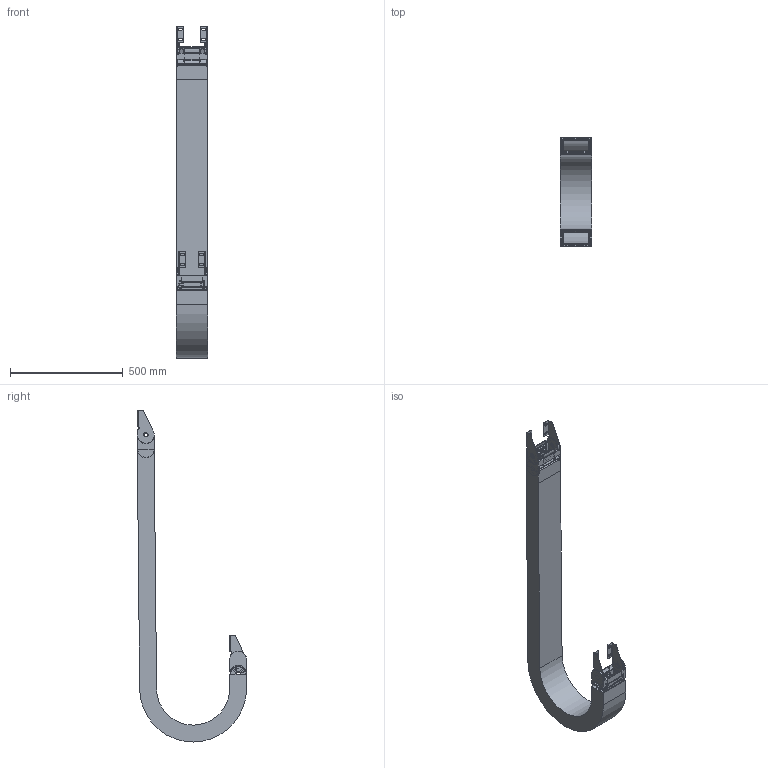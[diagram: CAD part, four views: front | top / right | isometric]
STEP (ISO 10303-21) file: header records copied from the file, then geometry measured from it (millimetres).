
FILE_DESCRIPTION((''),'2;1');
FILE_NAME('KLC-50110-200-FHSL0003_ASM','2025-04-04T09:29:00',('KUNI037K'),(''),'CREO PARAMETRIC BY PTC INC, 2024374','CREO PARAMETRIC BY PTC INC, 2024374','');
FILE_SCHEMA(('AUTOMOTIVE_DESIGN { 1 0 10303 214 1 1 1 1 }'));
Length unit declared in the file: millimetre
Products named in the file (9): KLC50110_BODY; KLC-50100_BODY2; BRACKET_FBR; BRACKET_FBL; KLC50FHS_ASM; BRACKET_MBUL; BRACKET_MBUR; KLC50MUHS_ASM; KLC-50110-200-FHSL0003_ASM
Assembly tree (9 placements, depth 3):
  KLC-50110-200-FHSL0003_ASM
    KLC50110_BODY  x2
    KLC-50100_BODY2
    KLC50FHS_ASM
      BRACKET_FBR
      BRACKET_FBL
    KLC50MUHS_ASM
      BRACKET_MBUL
      BRACKET_MBUR
Bounding box: 140 x 487 x 1475.5 mm (x, y, z)
Volume: 9222160.5 mm3; surface area: 1631569.9 mm2
Topology: 7 solids, 7 shells, 1896 faces, 5068 edges, 3260 vertices
Faces by surface type: plane 862, cylinder 774, torus 152, bspline 68, cone 24, sphere 16
Entity records: 41526 total; most frequent: CARTESIAN_POINT 7657, DIRECTION 5959, ORIENTED_EDGE 5748, EDGE_CURVE 2874, AXIS2_PLACEMENT_3D 2119, VERTEX_POINT 1854, VECTOR 1721, LINE 1721
